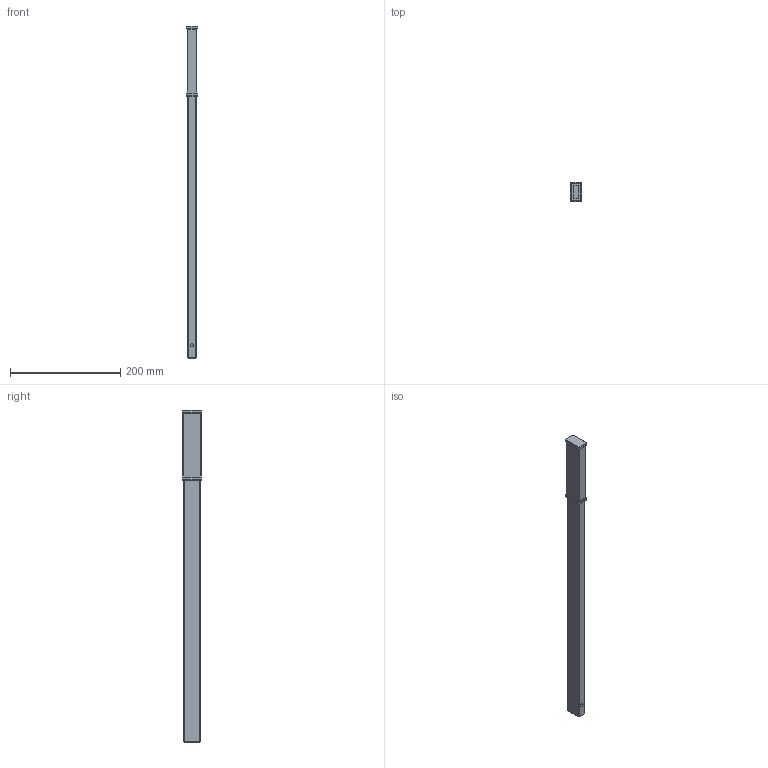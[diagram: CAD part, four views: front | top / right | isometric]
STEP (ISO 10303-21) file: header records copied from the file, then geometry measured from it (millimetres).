
FILE_DESCRIPTION(/* description */ (''),/* implementation_level */ '2;1');
FILE_NAME(/* name */ '6800.0053.stp',/* time_stamp */ '2026-04-07T15:50:26+02:00',/* author */ ('christian.scardovi'),/* organization */ (''),/* preprocessor_version */ 'ST-DEVELOPER v20.1',/* originating_system */ 'Autodesk Inventor 2026',/* authorisation */ '');
FILE_SCHEMA (('AUTOMOTIVE_DESIGN { 1 0 10303 214 3 1 1 }'));
Length unit declared in the file: millimetre
Products named in the file (1): 6800.0053
Bounding box: 21 x 36 x 602 mm (x, y, z)
Volume: 140603.7 mm3; surface area: 120059.9 mm2
Topology: 2 solids, 2 shells, 113 faces, 249 edges, 135 vertices
Faces by surface type: cylinder 49, plane 35, bspline 16, sphere 8, cone 5
Full cylindrical faces by diameter (mm): 6 x1
Entity records: 3397 total; most frequent: CARTESIAN_POINT 785, DIRECTION 542, ORIENTED_EDGE 480, EDGE_CURVE 240, AXIS2_PLACEMENT_3D 204, VERTEX_POINT 135, LINE 134, VECTOR 134
